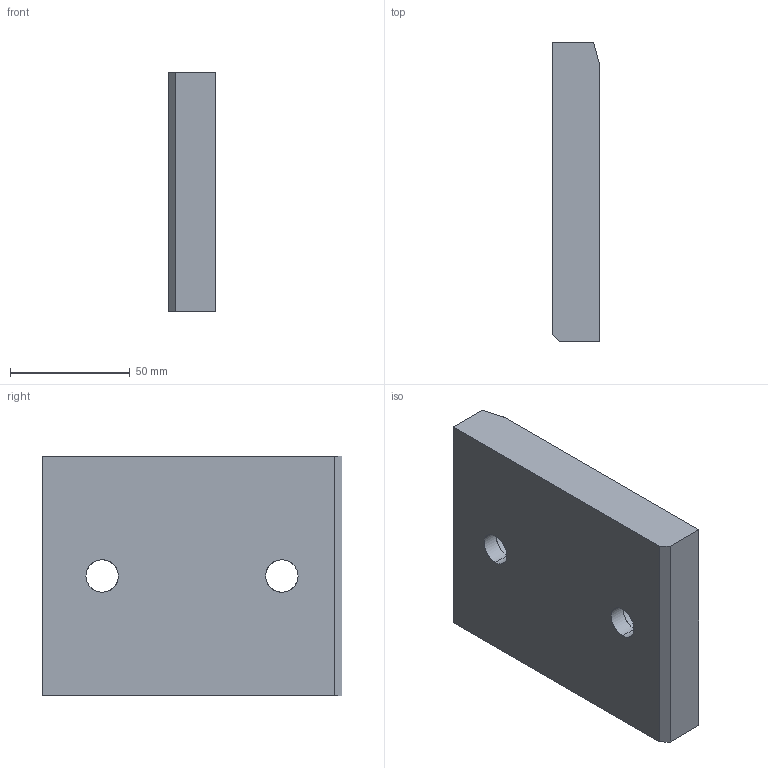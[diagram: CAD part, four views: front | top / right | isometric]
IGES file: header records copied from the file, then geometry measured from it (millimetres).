
Start section: START RECORD GO HERE.
Global section: file name: A915-100X125.igs; native system: DASSAULT SYSTEMES CATIA V5 R20 - www.3ds.com; preprocessor: CATIA Version 5 Release 20 ; author: Utente; organization: NB04-ASUS; date: 20200407.211245; units: millimetre
Bounding box: 20 x 125 x 100 mm (x, y, z)
Surface area: 35056.1 mm2 (no closed solid volume)
Topology: 0 solids, 0 shells, 23 faces, 106 edges, 106 vertices
Faces by surface type: revolution 13, extrusion 10
